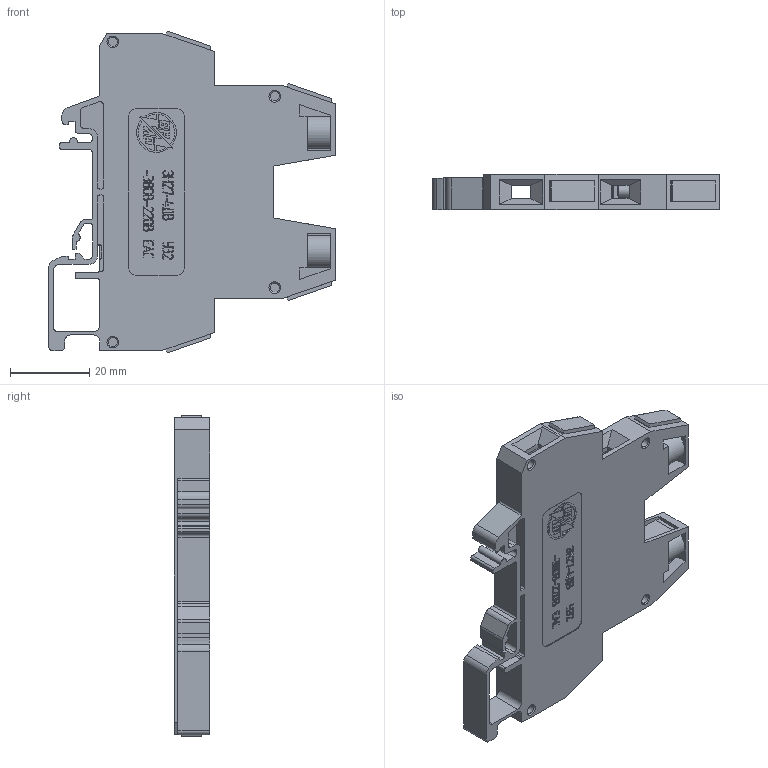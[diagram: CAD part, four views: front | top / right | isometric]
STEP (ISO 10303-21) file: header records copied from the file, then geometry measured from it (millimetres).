
FILE_DESCRIPTION(('STEP AP214'), '1');
FILE_NAME('ÇÍ27-4ÄÂ ñ ÊÒ14 (çàêàç÷èêàì)', '', ('UNSPECIFIED'), ('UNSPECIFIED'), 'ASCON STEP Converter 1.6', 'ASCON Math Kernel', '');
FILE_SCHEMA(('AUTOMOTIVE_DESIGN { 1 0 10303 214 3 1 1}'));
Length unit declared in the file: millimetre
Bounding box: 72.1 x 8.9 x 81.02 mm (x, y, z)
Volume: 14914.7 mm3; surface area: 21674.3 mm2
Topology: 4 solids, 4 shells, 1833 faces, 5261 edges, 3492 vertices
Faces by surface type: plane 1076, cylinder 741, cone 12, sphere 2, bspline 2
Full cylindrical faces by diameter (mm): 2.3 x2, 2.34 x4, 2.35 x2, 3 x4, 5.5 x2, 5.7 x2
Entity records: 74890 total; most frequent: CARTESIAN_POINT 10687, ORIENTED_EDGE 10470, DIRECTION 10429, EDGE_CURVE 5235, LINE 3681, VECTOR 3681, VERTEX_POINT 3492, AXIS2_PLACEMENT_3D 3374
